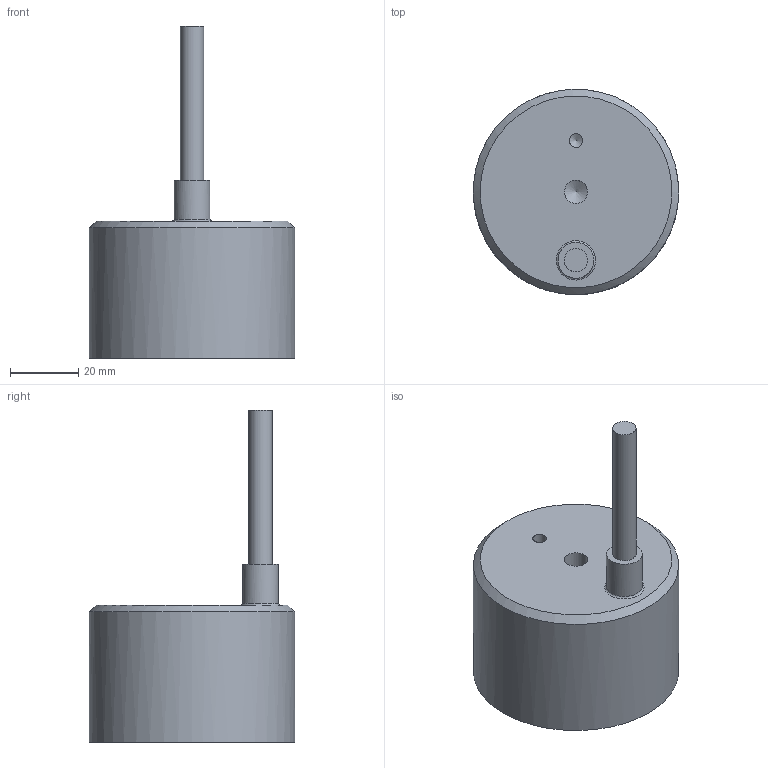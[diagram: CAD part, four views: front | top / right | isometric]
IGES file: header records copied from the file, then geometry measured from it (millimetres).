
Global section: file name: EMH-1-60Dx40H-V; native system: unknown; preprocessor: unknown; author: unknown; organization: unknown; date: 20231214.165748; units: millimetre
Bounding box: 60 x 59.98 x 97 mm (x, y, z)
Volume: 114631.3 mm3; surface area: 14706.6 mm2
Topology: 2 solids, 2 shells, 18 faces, 33 edges, 22 vertices
Faces by surface type: bspline 18
